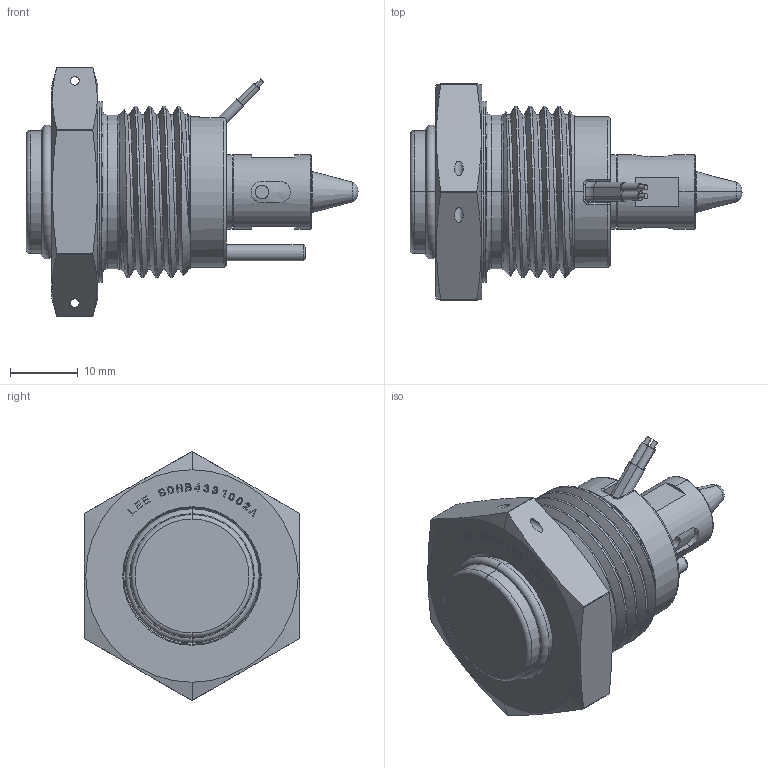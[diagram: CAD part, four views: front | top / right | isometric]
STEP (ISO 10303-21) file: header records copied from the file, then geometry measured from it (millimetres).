
FILE_DESCRIPTION(('Creo Elements/Direct Modeling STEP Export'),'2;1');
FILE_NAME('SDHB4331002A.stp','2021-04-08T 9:08:16',(''),(''),'Creo Elements/Direct Modeling STEP processor for AP214 (Solid Model)','Creo Elements/Direct Modeling 18.1 03-Mar-2012 (C) Parametric Technology GmbH','');
FILE_SCHEMA(('AUTOMOTIVE_DESIGN { 1 0 10303 214 1 1 1 1 }'));
Length unit declared in the file: millimetre
Products named in the file (2): SDHB4331002A
Assembly tree (1 placements, depth 2):
  SDHB4331002A
    SDHB4331002A
Bounding box: 48.84 x 31.75 x 36.62 mm (x, y, z)
Volume: 16133.4 mm3; surface area: 5540.7 mm2
Topology: 1 solids, 1 shells, 769 faces, 2116 edges, 1390 vertices
Faces by surface type: plane 618, cylinder 77, torus 31, cone 23, bspline 16, extrusion 2, sphere 2
Entity records: 31107 total; most frequent: CARTESIAN_POINT 11207, ORIENTED_EDGE 4224, DIRECTION 3458, EDGE_CURVE 2112, VECTOR 1768, LINE 1766, VERTEX_POINT 1390, AXIS2_PLACEMENT_3D 845
